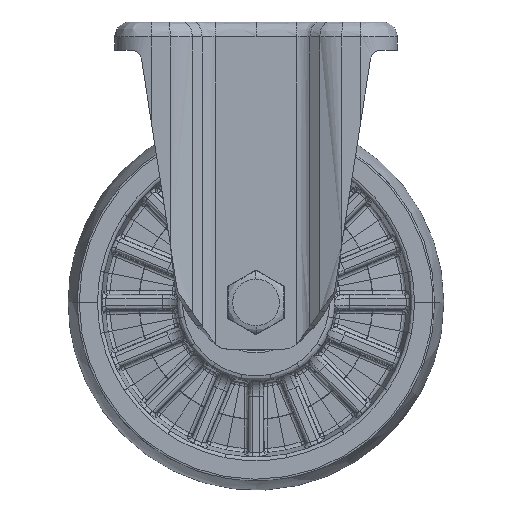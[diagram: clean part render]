
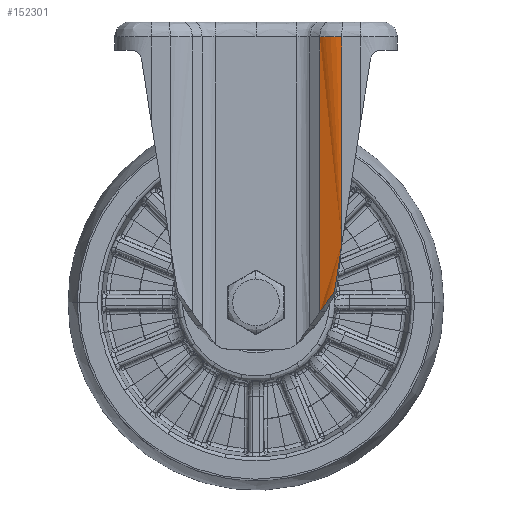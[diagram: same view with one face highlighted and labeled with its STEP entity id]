
A CAD part, front view. The second image highlights one B-rep face of the part: STEP entity #152301.
In plain terms, the highlighted free-form (B-spline) face has degree [3, 3] with [7, 4] control points.
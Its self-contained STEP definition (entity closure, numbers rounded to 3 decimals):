
#15871 = CARTESIAN_POINT ( 'NONE',  ( 46.001, -51., -106.628 ) ) ;
#16195 = CARTESIAN_POINT ( 'NONE',  ( 46.001, -51., -57.314 ) ) ;
#16198 = CARTESIAN_POINT ( 'NONE',  ( 46.001, -51., -8. ) ) ;
#16203 = CARTESIAN_POINT ( 'NONE',  ( 46.001, -51., -155.942 ) ) ;
#16205 = CARTESIAN_POINT ( 'NONE',  ( 46.001, -51., -8. ) ) ;
#16208 = CARTESIAN_POINT ( 'NONE',  ( 46.001, -51., -57.314 ) ) ;
#16211 = CARTESIAN_POINT ( 'NONE',  ( 46.001, -51., -106.628 ) ) ;
#16213 = CARTESIAN_POINT ( 'NONE',  ( 46.001, -51., -155.942 ) ) ;
#16216 = CARTESIAN_POINT ( 'NONE',  ( 46., -51., -8. ) ) ;
#16219 = CARTESIAN_POINT ( 'NONE',  ( 46., -51., -57.314 ) ) ;
#16222 = CARTESIAN_POINT ( 'NONE',  ( 46., -51., -106.628 ) ) ;
#16224 = CARTESIAN_POINT ( 'NONE',  ( 46., -51., -155.942 ) ) ;
#16227 = CARTESIAN_POINT ( 'NONE',  ( 46., -51., -8. ) ) ;
#16230 = CARTESIAN_POINT ( 'NONE',  ( 46., -51., -57.314 ) ) ;
#16232 = CARTESIAN_POINT ( 'NONE',  ( 46., -51., -106.628 ) ) ;
#16235 = CARTESIAN_POINT ( 'NONE',  ( 46., -51., -155.942 ) ) ;
#16238 = CARTESIAN_POINT ( 'NONE',  ( 41.723, -51., -8. ) ) ;
#16241 = CARTESIAN_POINT ( 'NONE',  ( 41.723, -51., -57.314 ) ) ;
#16243 = CARTESIAN_POINT ( 'NONE',  ( 41.723, -51., -106.628 ) ) ;
#16246 = CARTESIAN_POINT ( 'NONE',  ( 41.723, -51., -155.942 ) ) ;
#16249 = CARTESIAN_POINT ( 'NONE',  ( 37.565, -49.594, -8. ) ) ;
#16251 = CARTESIAN_POINT ( 'NONE',  ( 37.565, -49.594, -57.314 ) ) ;
#16254 = CARTESIAN_POINT ( 'NONE',  ( 37.565, -49.594, -106.628 ) ) ;
#16257 = CARTESIAN_POINT ( 'NONE',  ( 37.565, -49.594, -155.942 ) ) ;
#16260 = CARTESIAN_POINT ( 'NONE',  ( 34.166, -46.999, -8. ) ) ;
#16262 = CARTESIAN_POINT ( 'NONE',  ( 34.166, -46.999, -57.314 ) ) ;
#16265 = CARTESIAN_POINT ( 'NONE',  ( 34.166, -46.999, -106.628 ) ) ;
#16268 = CARTESIAN_POINT ( 'NONE',  ( 34.166, -46.999, -155.942 ) ) ;
#31538 = FACE_OUTER_BOUND ( 'NONE', #99542, .T. ) ;
#46746 = LINE ( 'NONE', #152981, #46748 ) ;
#46748 = VECTOR ( 'NONE', #152984, 1000. ) ;
#77886 = CARTESIAN_POINT ( 'NONE',  ( 34.166, -46.999, -155.06 ) ) ;
#77906 = CARTESIAN_POINT ( 'NONE',  ( 46., -51., -118.2 ) ) ;
#83092 = CARTESIAN_POINT ( 'NONE',  ( 42., -50.585, -144. ) ) ;
#83277 = CARTESIAN_POINT ( 'NONE',  ( 34.166, -46.999, -8. ) ) ;
#83699 = CARTESIAN_POINT ( 'NONE',  ( 46., -51., -8. ) ) ;
#99542 = EDGE_LOOP ( 'NONE', ( #174836, #174838, #174840, #174842, #174844 ) ) ;
#130406 = B_SPLINE_CURVE_WITH_KNOTS ( 'NONE', 3,
 ( #139354, #139431, #139433, #139435, #139437, #139439, #139441, #139442, #139444, #139446 ),
 .UNSPECIFIED., .F., .F.,
 ( 4, 2, 2, 2, 4 ),
 ( 0., 0.004, 0.007, 0.011, 0.014 ),
 .UNSPECIFIED. ) ;
#139354 = CARTESIAN_POINT ( 'NONE',  ( 34.166, -46.999, -155.06 ) ) ;
#139431 = CARTESIAN_POINT ( 'NONE',  ( 34.786, -47.472, -154.183 ) ) ;
#139433 = CARTESIAN_POINT ( 'NONE',  ( 35.418, -47.896, -153.292 ) ) ;
#139435 = CARTESIAN_POINT ( 'NONE',  ( 36.701, -48.656, -151.483 ) ) ;
#139437 = CARTESIAN_POINT ( 'NONE',  ( 37.352, -48.992, -150.565 ) ) ;
#139439 = CARTESIAN_POINT ( 'NONE',  ( 38.663, -49.581, -148.713 ) ) ;
#139441 = CARTESIAN_POINT ( 'NONE',  ( 39.326, -49.836, -147.778 ) ) ;
#139442 = CARTESIAN_POINT ( 'NONE',  ( 40.658, -50.267, -145.897 ) ) ;
#139444 = CARTESIAN_POINT ( 'NONE',  ( 41.328, -50.444, -144.951 ) ) ;
#139446 = CARTESIAN_POINT ( 'NONE',  ( 42., -50.585, -144. ) ) ;
#147424 = VERTEX_POINT ( 'NONE', #77886 ) ;
#147464 = VERTEX_POINT ( 'NONE', #77906 ) ;
#152301 = ADVANCED_FACE ( 'NONE', ( #31538 ), #188044, .T. ) ;
#152981 = CARTESIAN_POINT ( 'NONE',  ( 46., -51., 0. ) ) ;
#152984 = DIRECTION ( 'NONE',  ( 0., 0., -1. ) ) ;
#172597 = EDGE_CURVE ( 'NONE', #147424, #185251, #130406, .T. ) ;
#172771 = EDGE_CURVE ( 'NONE', #185869, #147464, #46746, .T. ) ;
#172956 = EDGE_CURVE ( 'NONE', #185251, #147464, #178548, .T. ) ;
#172964 = EDGE_CURVE ( 'NONE', #147424, #185441, #178578, .T. ) ;
#172966 = EDGE_CURVE ( 'NONE', #185869, #185441, #178586, .T. ) ;
#174836 = ORIENTED_EDGE ( 'NONE', *, *, #172956, .T. ) ;
#174838 = ORIENTED_EDGE ( 'NONE', *, *, #172771, .F. ) ;
#174840 = ORIENTED_EDGE ( 'NONE', *, *, #172966, .T. ) ;
#174842 = ORIENTED_EDGE ( 'NONE', *, *, #172964, .F. ) ;
#174844 = ORIENTED_EDGE ( 'NONE', *, *, #172597, .T. ) ;
#177053 = CARTESIAN_POINT ( 'NONE',  ( 42., -50.585, -144. ) ) ;
#177068 = CARTESIAN_POINT ( 'NONE',  ( 43.332, -50.865, -135.403 ) ) ;
#177069 = CARTESIAN_POINT ( 'NONE',  ( 44.667, -51., -126.802 ) ) ;
#177070 = CARTESIAN_POINT ( 'NONE',  ( 46., -51., -118.2 ) ) ;
#177153 = CARTESIAN_POINT ( 'NONE',  ( 34.166, -46.999, -155.06 ) ) ;
#177158 = CARTESIAN_POINT ( 'NONE',  ( 34.166, -46.999, -106.04 ) ) ;
#177159 = CARTESIAN_POINT ( 'NONE',  ( 34.166, -46.999, -57.02 ) ) ;
#177160 = CARTESIAN_POINT ( 'NONE',  ( 34.166, -46.999, -8. ) ) ;
#177161 = CARTESIAN_POINT ( 'NONE',  ( 46., -51., -8. ) ) ;
#177165 = CARTESIAN_POINT ( 'NONE',  ( 41.723, -51., -8. ) ) ;
#177166 = CARTESIAN_POINT ( 'NONE',  ( 37.565, -49.594, -8. ) ) ;
#177167 = CARTESIAN_POINT ( 'NONE',  ( 34.166, -46.999, -8. ) ) ;
#178548 = B_SPLINE_CURVE_WITH_KNOTS ( 'NONE', 3,
 ( #177053, #177068, #177069, #177070 ),
 .UNSPECIFIED., .F., .F.,
 ( 4, 4 ),
 ( 0., 0.026 ),
 .UNSPECIFIED. ) ;
#178578 = B_SPLINE_CURVE_WITH_KNOTS ( 'NONE', 3,
 ( #177153, #177158, #177159, #177160 ),
 .UNSPECIFIED., .F., .F.,
 ( 4, 4 ),
 ( 0., 1. ),
 .UNSPECIFIED. ) ;
#178586 = B_SPLINE_CURVE_WITH_KNOTS ( 'NONE', 3,
 ( #177161, #177165, #177166, #177167 ),
 .UNSPECIFIED., .F., .F.,
 ( 4, 4 ),
 ( 0., 1. ),
 .UNSPECIFIED. ) ;
#185251 = VERTEX_POINT ( 'NONE', #83092 ) ;
#185441 = VERTEX_POINT ( 'NONE', #83277 ) ;
#185869 = VERTEX_POINT ( 'NONE', #83699 ) ;
#188044 = B_SPLINE_SURFACE_WITH_KNOTS ( 'NONE', 3, 3, ( 
 ( #16198, #16195, #15871, #16203 ),
 ( #16205, #16208, #16211, #16213 ),
 ( #16216, #16219, #16222, #16224 ),
 ( #16227, #16230, #16232, #16235 ),
 ( #16238, #16241, #16243, #16246 ),
 ( #16249, #16251, #16254, #16257 ),
 ( #16260, #16262, #16265, #16268 ) ),
 .UNSPECIFIED., .F., .F., .F.,
 ( 4, 3, 4 ),
 ( 4, 4 ),
 ( 0., 0., 1. ),
 ( 0.046, 0.891 ),
 .UNSPECIFIED. ) ;
